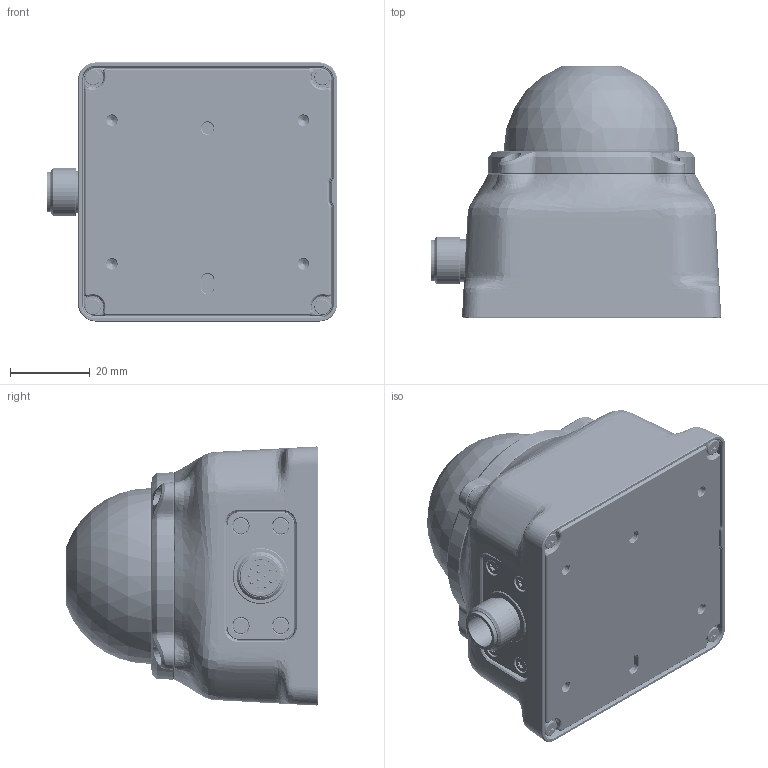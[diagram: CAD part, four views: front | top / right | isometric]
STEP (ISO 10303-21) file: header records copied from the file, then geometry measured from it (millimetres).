
FILE_DESCRIPTION((''),'2;1');
FILE_NAME('000_LD2502_P0_ASM','2026-07-02T16:30:08',('xiaokang.fu'),(''),'CREO PARAMETRIC BY PTC INC, 2019164','CREO PARAMETRIC BY PTC INC, 2019164','');
FILE_SCHEMA(('CONFIG_CONTROL_DESIGN','SHAPE_APPEARANCE_LAYERS_GROUPS'));
Length unit declared in the file: millimetre
Products named in the file (19): YC_OC_PA000085_QIUZHAO; YC_OC_PA000085_ASM; LD2502_SEALRING_QIUZHAO_P0; LD2502_SEALRING_POWERLINE_P0; LD2502_SEALRING_BOTTOM_P0; LD2502_YAHUAN_PLASTIC_P0; LD2502_ID_SHELL_TOP; LD2502_SHELL_BOTTOM_SOB; LD2502_THERMALMUD_BOTTOM; YC_ST_LL000300; 00_LD2502_SHELL_ASM; YC_WJ_LL000271_01; YC_WJ_LL000289_03; LD2502_LIDAR_HC_JT; LD2502_XS_JT_20251119; LD2502_LIDAR_HC_XS_XL; LD2502_LIDAR_HC_JT_ASM_ASM; LD2502_RANGING_PLATE_P0; 000_LD2502_P0_ASM
Assembly tree (33 placements, depth 4):
  000_LD2502_P0_ASM
    00_LD2502_SHELL_ASM
      YC_OC_PA000085_ASM
        YC_OC_PA000085_QIUZHAO
      LD2502_SEALRING_QIUZHAO_P0
      LD2502_SEALRING_POWERLINE_P0
      LD2502_SEALRING_BOTTOM_P0
      LD2502_YAHUAN_PLASTIC_P0
      LD2502_ID_SHELL_TOP
      LD2502_SHELL_BOTTOM_SOB
      LD2502_THERMALMUD_BOTTOM
      YC_ST_LL000300  x12
    YC_WJ_LL000271_01  x4
    YC_WJ_LL000289_03  x2
    LD2502_LIDAR_HC_JT_ASM_ASM
      LD2502_LIDAR_HC_JT
      LD2502_XS_JT_20251119
      LD2502_LIDAR_HC_XS_XL
    LD2502_RANGING_PLATE_P0
Bounding box: 72.78 x 63 x 64.97 mm (x, y, z)
Volume: 64249 mm3; surface area: 62137.2 mm2
Topology: 41 solids, 90 shells, 5610 faces, 13554 edges, 8075 vertices
Faces by surface type: plane 1586, bspline 1558, cylinder 959, torus 695, cone 678, sphere 134
Entity records: 280253 total; most frequent: CARTESIAN_POINT 127287, ORIENTED_EDGE 24276, DIRECTION 20503, PRESENTATION_STYLE_ASSIGNMENT 12311, EDGE_CURVE 12250, STYLED_ITEM 11733, CURVE_STYLE 11372, AXIS2_PLACEMENT_3D 8009
